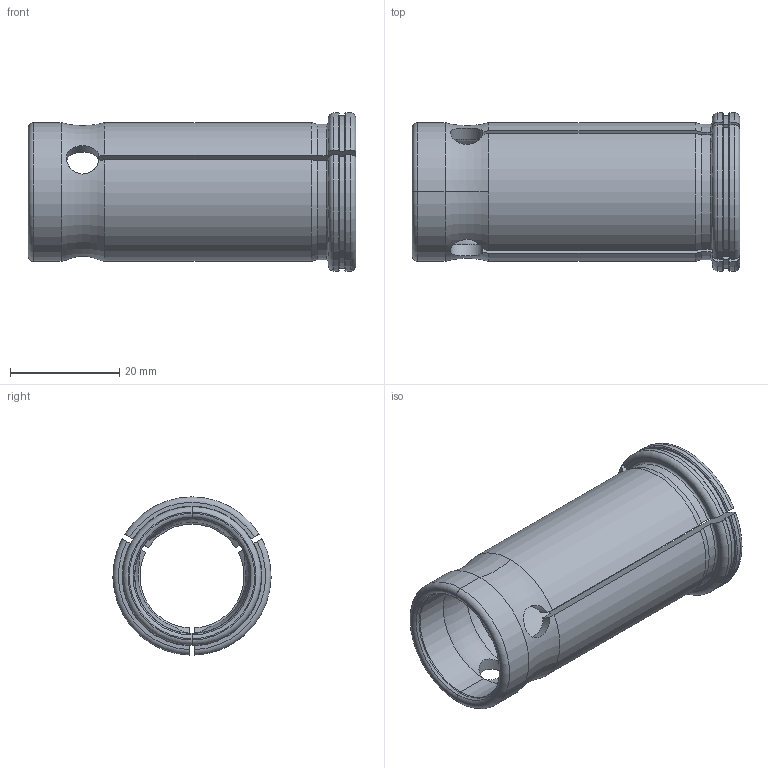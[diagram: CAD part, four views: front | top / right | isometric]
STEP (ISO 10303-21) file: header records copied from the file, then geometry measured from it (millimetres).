
FILE_DESCRIPTION((''),'2;1');
FILE_NAME('K25_4-19_05','2020-09-02T08:17:39',('ssktool'),(''),'CREO PARAMETRIC BY PTC INC, 2018100','CREO PARAMETRIC BY PTC INC, 2018100','');
FILE_SCHEMA(('CONFIG_CONTROL_DESIGN'));
Length unit declared in the file: millimetre
Products named in the file (1): K25_4-19_05
Bounding box: 60 x 29 x 28.99 mm (x, y, z)
Volume: 12226 mm3; surface area: 9709.5 mm2
Topology: 1 solids, 1 shells, 90 faces, 253 edges, 164 vertices
Faces by surface type: cylinder 28, torus 26, plane 19, cone 17
Entity records: 3344 total; most frequent: CARTESIAN_POINT 1055, ORIENTED_EDGE 506, DIRECTION 444, EDGE_CURVE 253, AXIS2_PLACEMENT_3D 183, VERTEX_POINT 164, CIRCLE 93, EDGE_LOOP 91
